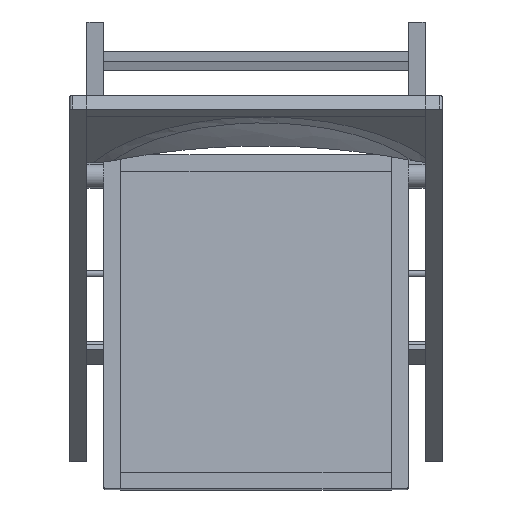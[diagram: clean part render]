
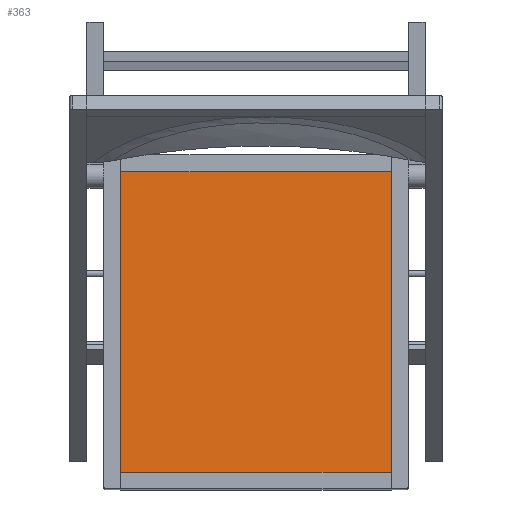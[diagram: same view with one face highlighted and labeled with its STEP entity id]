
A CAD part, top view. The second image highlights one B-rep face of the part: STEP entity #363.
In plain terms, the highlighted planar face has unit normal (0, 0.071, 0.998).
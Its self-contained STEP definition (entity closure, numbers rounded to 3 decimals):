
#363=ADVANCED_FACE('',(#768),#5847,.T.);
#768=FACE_OUTER_BOUND('',#1205,.T.);
#1205=EDGE_LOOP('',(#2460,#2461,#2462,#2463));
#2460=ORIENTED_EDGE('',*,*,#3721,.T.);
#2461=ORIENTED_EDGE('',*,*,#3725,.T.);
#2462=ORIENTED_EDGE('',*,*,#3728,.T.);
#2463=ORIENTED_EDGE('',*,*,#3730,.T.);
#3721=EDGE_CURVE('',#5348,#5347,#4781,.T.);
#3725=EDGE_CURVE('',#5347,#5350,#4785,.T.);
#3728=EDGE_CURVE('',#5350,#5352,#4788,.T.);
#3730=EDGE_CURVE('',#5352,#5348,#4790,.T.);
#4781=B_SPLINE_CURVE_WITH_KNOTS('',1,(#8967,#8968),.UNSPECIFIED.,.F.,.F.,
(2,2),(0.,1.),.UNSPECIFIED.);
#4785=B_SPLINE_CURVE_WITH_KNOTS('',1,(#8975,#8976),.UNSPECIFIED.,.F.,.F.,
(2,2),(1.,2.),.UNSPECIFIED.);
#4788=B_SPLINE_CURVE_WITH_KNOTS('',1,(#8981,#8982),.UNSPECIFIED.,.F.,.F.,
(2,2),(2.,3.),.UNSPECIFIED.);
#4790=B_SPLINE_CURVE_WITH_KNOTS('',1,(#8985,#8986),.UNSPECIFIED.,.F.,.F.,
(2,2),(3.,4.),.UNSPECIFIED.);
#5347=VERTEX_POINT('',#8957);
#5348=VERTEX_POINT('',#8958);
#5350=VERTEX_POINT('',#8960);
#5352=VERTEX_POINT('',#8962);
#5847=PLANE('',#6243);
#6243=AXIS2_PLACEMENT_3D('',#8954,#6621,$);
#6621=DIRECTION('',(0.,0.071,0.997));
#8954=CARTESIAN_POINT('',(166.,-262.107,445.938));
#8957=CARTESIAN_POINT('',(166.,-262.107,445.938));
#8958=CARTESIAN_POINT('',(-166.,-262.107,445.938));
#8960=CARTESIAN_POINT('',(166.,104.961,419.768));
#8962=CARTESIAN_POINT('',(-166.,104.961,419.768));
#8967=CARTESIAN_POINT('',(-166.,-262.107,445.938));
#8968=CARTESIAN_POINT('',(166.,-262.107,445.938));
#8975=CARTESIAN_POINT('',(166.,-262.107,445.938));
#8976=CARTESIAN_POINT('',(166.,104.961,419.768));
#8981=CARTESIAN_POINT('',(166.,104.961,419.768));
#8982=CARTESIAN_POINT('',(-166.,104.961,419.768));
#8985=CARTESIAN_POINT('',(-166.,104.961,419.768));
#8986=CARTESIAN_POINT('',(-166.,-262.107,445.938));
